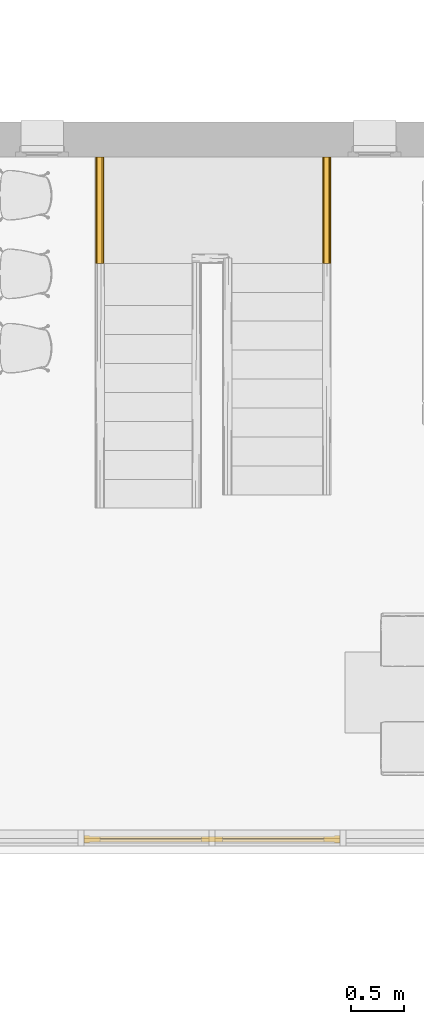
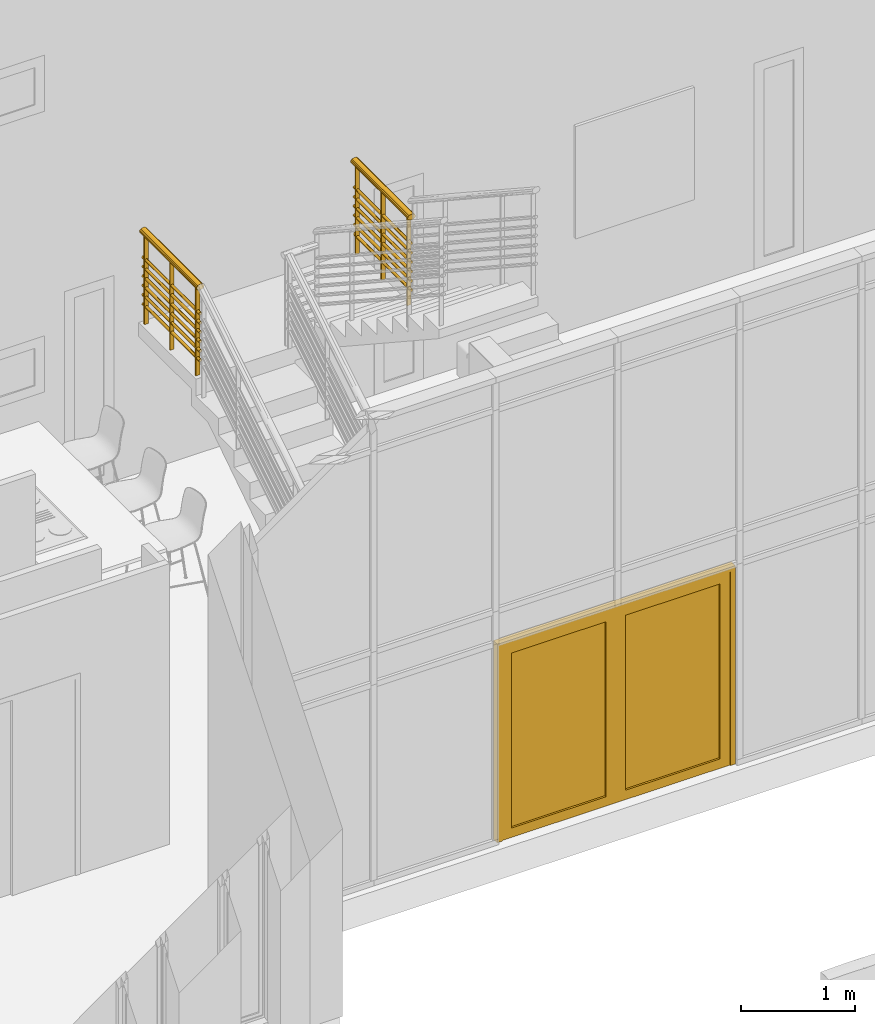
# One storey, part 19 of 40: 2 railings, 1 door, 2 elements without a shape of their own.
"""IFC2X3 building model written with IfcOpenShell, lengths in metres."""

from ifc_helpers import new_model, entity, si_unit, converted_unit, derived_unit, direction, frame, frame_2d, origin, origin_2d_with_axis, place, context, subcontext, project, spatial, polyline, rectangle, circle, outline, extrude, source, transform, mapped, material, material_list, type_object, type_shapes, element, aggregate, save


model = new_model("IFC2X3")

# Units and contexts
model_context = context("Model", 3, precision=1e-05, world=origin(), true_north=direction((6.12303176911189e-17, 1.0)))
body_context = subcontext(model_context, "Body", "Model", "MODEL_VIEW")
ifc_project = project(units=[si_unit("LENGTHUNIT", "METRE"), si_unit("AREAUNIT", "SQUARE_METRE"), si_unit("VOLUMEUNIT", "CUBIC_METRE"), converted_unit("PLANEANGLEUNIT", "DEGREE", entity("IfcRatioMeasure", 0.0174532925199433), si_unit("PLANEANGLEUNIT", "RADIAN"), dimensions=[0, 0, 0, 0, 0, 0, 0]), si_unit("MASSUNIT", "GRAM", prefix="KILO"), derived_unit("MASSDENSITYUNIT", [(si_unit("MASSUNIT", "GRAM", prefix="KILO"), 1), (si_unit("LENGTHUNIT", "METRE"), -3)]), si_unit("TIMEUNIT", "SECOND"), si_unit("FREQUENCYUNIT", "HERTZ"), si_unit("THERMODYNAMICTEMPERATUREUNIT", "DEGREE_CELSIUS"), derived_unit("THERMALTRANSMITTANCEUNIT", [(si_unit("MASSUNIT", "GRAM", prefix="KILO"), 1), (si_unit("THERMODYNAMICTEMPERATUREUNIT", "KELVIN"), -1), (si_unit("TIMEUNIT", "SECOND"), -3)]), derived_unit("VOLUMETRICFLOWRATEUNIT", [(si_unit("LENGTHUNIT", "METRE"), 3), (si_unit("TIMEUNIT", "SECOND"), -1)]), si_unit("ELECTRICCURRENTUNIT", "AMPERE"), si_unit("ELECTRICVOLTAGEUNIT", "VOLT"), si_unit("POWERUNIT", "WATT"), si_unit("FORCEUNIT", "NEWTON", prefix="KILO"), si_unit("ILLUMINANCEUNIT", "LUX"), si_unit("LUMINOUSFLUXUNIT", "LUMEN"), si_unit("LUMINOUSINTENSITYUNIT", "CANDELA"), derived_unit("USERDEFINED", [(si_unit("MASSUNIT", "GRAM", prefix="KILO"), -1), (si_unit("LENGTHUNIT", "METRE"), -2), (si_unit("TIMEUNIT", "SECOND"), 3), (si_unit("LUMINOUSFLUXUNIT", "LUMEN"), 1)]), derived_unit("LINEARVELOCITYUNIT", [(si_unit("LENGTHUNIT", "METRE"), 1), (si_unit("TIMEUNIT", "SECOND"), -1)]), si_unit("PRESSUREUNIT", "PASCAL"), derived_unit("USERDEFINED", [(si_unit("LENGTHUNIT", "METRE"), -2), (si_unit("MASSUNIT", "GRAM", prefix="KILO"), 1), (si_unit("TIMEUNIT", "SECOND"), -2)])], contexts=[model_context])

# Site, building, storey
site_placement = place(None, origin())
site = spatial("IfcSite", under=ifc_project, at=site_placement, Name="Surface", CompositionType="ELEMENT")
building_placement = place(site_placement, origin())
building = spatial("IfcBuilding", under=site, at=building_placement, CompositionType="ELEMENT")
storey_placement = place(building_placement, origin())
storey = spatial("IfcBuildingStorey", under=building, at=storey_placement, Name="RDC", CompositionType="ELEMENT", Elevation=-1.0941605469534e-13)

# Curtain wall, door
curtain_wall_type = type_object("IfcCurtainWallType", Name="Mur-rideau:Simple panneau", PredefinedType="NOTDEFINED")
curtain_wall_placement = place(storey_placement, origin())
curtain_wall = element("IfcCurtainWall", 1, at=curtain_wall_placement, inside=storey, type_object=curtain_wall_type, Name="Mur-rideau:Simple panneau", ObjectType="Mur-rideau:Simple panneau")
ifc_material_1 = material(Name="Porte - Cadre")
ifc_material_2 = material(Name="PVC - Blanc")
ifc_material_3 = material(Name="Verre")
ifc_material_list_1 = material_list([ifc_material_1, ifc_material_2, ifc_material_3])
ifc_material_list_2 = material_list([ifc_material_1, ifc_material_2, ifc_material_3])
door_style = type_object("IfcDoorStyle", Name="Double vitrée", ConstructionType="NOTDEFINED", OperationType="DOUBLE_DOOR_SINGLE_SWING", ParameterTakesPrecedence=False, Sizeable=False, material=ifc_material_list_2)
shared_shape = source(origin(), body_context, "Body", "SweptSolid", [
    extrude(outline(polyline([(1.15333333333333, -1.0475), (1.20333333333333, -1.0475), (1.20333333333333, 1.0725), (-1.20333333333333, 1.0725), (-1.20333333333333, -1.0475), (-1.15333333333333, -1.0475), (-1.15333333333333, 1.0225), (1.15333333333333, 1.0225), (1.15333333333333, -1.0475)])), frame((0.0, -0.0449999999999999, 1.0475), z_axis=(0.0, 1.0, 0.0), x_axis=(-1.0, 0.0, 0.0)), (0.0, 0.0, 1.0), 0.0699999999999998),
    extrude(outline(polyline([(-0.576666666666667, -1.035), (0.576666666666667, -1.035), (0.576666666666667, 1.035), (-0.576666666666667, 1.035), (-0.576666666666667, -1.035)]), holes=[polyline([(-0.476666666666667, 0.935), (0.476666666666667, 0.935), (0.476666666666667, -0.935), (-0.476666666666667, -0.935), (-0.476666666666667, 0.935)])]), frame((0.576666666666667, -0.0349999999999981, 1.035), z_axis=(0.0, 1.0, 0.0), x_axis=(-1.0, 0.0, 0.0)), (0.0, 0.0, 1.0), 0.05),
    extrude(rectangle(XDim=0.953333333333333, YDim=0.01, at=origin_2d_with_axis()), frame((0.576666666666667, -0.00999999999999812, 0.1), z_axis=(0.0, 0.0, 1.0), x_axis=(-1.0, 0.0, 0.0)), (0.0, 0.0, 1.0), 1.87),
    extrude(rectangle(XDim=0.953333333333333, YDim=0.01, at=frame_2d((0.0, 8.67361737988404e-19), x_axis=(1.0, 0.0))), frame((-0.576666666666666, -0.0100000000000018, 0.1), z_axis=(0.0, 0.0, 1.0), x_axis=(-1.0, 0.0, 0.0)), (0.0, 0.0, 1.0), 1.87),
    extrude(outline(polyline([(-1.035, -0.576666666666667), (1.035, -0.576666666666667), (1.035, 0.576666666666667), (-1.035, 0.576666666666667), (-1.035, -0.576666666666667)]), holes=[polyline([(-0.935, -0.476666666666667), (-0.935, 0.476666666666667), (0.935, 0.476666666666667), (0.935, -0.476666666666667), (-0.935, -0.476666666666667)])]), frame((-0.576666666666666, -0.0350000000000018, 1.035), z_axis=(0.0, 1.0, 0.0), x_axis=(0.0, 0.0, -1.0)), (0.0, 0.0, 1.0), 0.05),
])
type_shapes(door_style, [shared_shape])
door_placement = place(curtain_wall_placement, frame((2.3975111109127, 1.13701067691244, 0.0)))
door = element("IfcDoor", 2, at=door_placement, type_object=door_style, material=ifc_material_list_1, Name="Double vitrée:Double vitrée", ObjectType="Double vitrée", OverallHeight=2.12, OverallWidth=2.40666666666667, context=body_context, shape_type="MappedRepresentation", body=[
    mapped(shared_shape, transform((0.0, 0.0, 0.0), scale=1.0)),
])
aggregate(curtain_wall, [door])

# Stair, railings
stair_placement = place(storey_placement, origin())
stair = element("IfcStair", 3, at=stair_placement, inside=storey, Name="Escalier:Monobloc", ObjectType="Escalier:Monobloc", ShapeType="NOTDEFINED")
ifc_material_4 = material(Name="Peinture - Grise")
ifc_material_5 = material(Name="Pin (1)")
ifc_material_list_3 = material_list([ifc_material_4, ifc_material_5])
railing_1_placement = place(stair_placement, origin())
railing_1 = element("IfcRailing", 4, at=railing_1_placement, material=ifc_material_list_3, Name="Garde-corps:Type Bateau escalier 2", ObjectType="Garde-corps:Type Bateau escalier 2", PredefinedType="NOTDEFINED", context=body_context, shape_type="SweptSolid", body=[
    extrude(rectangle(XDim=0.0119999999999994, YDim=0.0400000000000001, at=origin_2d_with_axis()), frame((1.34251111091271, 7.04701067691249, 1.60941176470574), z_axis=(0.0, 0.0, 1.0), x_axis=(0.0, -1.0, 0.0)), (0.0, 0.0, 1.0), 0.939846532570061),
    extrude(rectangle(XDim=0.0119999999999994, YDim=0.0400000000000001, at=origin_2d_with_axis()), frame((1.34251111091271, 7.49701067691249, 1.60941176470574), z_axis=(0.0, 0.0, 1.0), x_axis=(0.0, -1.0, 0.0)), (0.0, 0.0, 1.0), 0.939846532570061),
    extrude(rectangle(XDim=0.0119999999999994, YDim=0.0400000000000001, at=origin_2d_with_axis()), frame((1.34251111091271, 6.59701067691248, 1.60941176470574), z_axis=(0.0, 0.0, 1.0), x_axis=(0.0, -1.0, 0.0)), (0.0, 0.0, 1.0), 0.939846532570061),
    extrude(circle(Radius=0.015, at=frame_2d((-2.70716782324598e-16, 0.0), x_axis=(1.0, 0.0))), frame((1.34251111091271, 6.54701067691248, 2.29441176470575), z_axis=(0.0, 1.0, 0.0), x_axis=(1.0, 0.0, 0.0)), (0.0, 0.0, 1.0), 1.0),
    extrude(circle(Radius=0.015, at=frame_2d((-2.70716782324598e-16, 0.0), x_axis=(1.0, 0.0))), frame((1.34251111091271, 6.54701067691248, 2.19441176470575), z_axis=(0.0, 1.0, 0.0), x_axis=(1.0, 0.0, 0.0)), (0.0, 0.0, 1.0), 1.0),
    extrude(circle(Radius=0.015, at=frame_2d((-2.70716782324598e-16, 0.0), x_axis=(1.0, 0.0))), frame((1.34251111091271, 6.54701067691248, 2.09441176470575), z_axis=(0.0, 1.0, 0.0), x_axis=(1.0, 0.0, 0.0)), (0.0, 0.0, 1.0), 1.0),
    extrude(circle(Radius=0.015, at=frame_2d((-2.70716782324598e-16, 0.0), x_axis=(1.0, 0.0))), frame((1.34251111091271, 6.54701067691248, 1.99441176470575), z_axis=(0.0, 1.0, 0.0), x_axis=(1.0, 0.0, 0.0)), (0.0, 0.0, 1.0), 1.0),
    extrude(circle(Radius=0.015, at=frame_2d((-2.70716782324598e-16, 0.0), x_axis=(1.0, 0.0))), frame((1.34251111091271, 6.54701067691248, 1.89441176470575), z_axis=(0.0, 1.0, 0.0), x_axis=(1.0, 0.0, 0.0)), (0.0, 0.0, 1.0), 1.0),
    extrude(circle(Radius=0.015, at=frame_2d((-2.70716782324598e-16, 0.0), x_axis=(1.0, 0.0))), frame((1.34251111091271, 6.54701067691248, 1.79441176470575), z_axis=(0.0, 1.0, 0.0), x_axis=(1.0, 0.0, 0.0)), (0.0, 0.0, 1.0), 1.0),
    extrude(outline(polyline([(-0.0109067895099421, -0.038484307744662), (0.00177588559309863, -0.038484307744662), (0.0141514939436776, -0.0318300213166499), (0.024080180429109, -0.0196720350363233), (0.0298451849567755, -0.00411257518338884), (0.0304496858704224, 0.012157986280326), (0.0257891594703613, 0.0263263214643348), (0.0166694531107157, 0.0359425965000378), (0.0109067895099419, 0.0384843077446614), (-0.00177588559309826, 0.0384843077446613), (-0.0141514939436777, 0.0318300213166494), (-0.0240801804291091, 0.019672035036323), (-0.0298451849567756, 0.00411257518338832), (-0.0304496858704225, -0.0121579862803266), (-0.0257891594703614, -0.0263263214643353), (-0.0166694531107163, -0.0359425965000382), (-0.0109067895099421, -0.038484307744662)])), frame((1.34251111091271, 6.54701067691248, 2.57941176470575), z_axis=(0.0, 1.0, 0.0), x_axis=(-0.272669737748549, 0.0, -0.96210769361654)), (0.0, 0.0, 1.0), 1.0),
])
ifc_material_list_4 = material_list([ifc_material_4, ifc_material_5])
railing_2_placement = place(stair_placement, origin())
railing_2 = element("IfcRailing", 5, at=railing_2_placement, material=ifc_material_list_4, Name="Garde-corps:Type Bateau escalier 2", ObjectType="Garde-corps:Type Bateau escalier 2", PredefinedType="NOTDEFINED", context=body_context, shape_type="SweptSolid", body=[
    extrude(rectangle(XDim=0.0119999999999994, YDim=0.0400000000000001, at=frame_2d((0.0, -2.70616862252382e-16), x_axis=(1.0, 0.0))), frame((3.47751111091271, 7.04701067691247, 1.60941176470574), z_axis=(0.0, 0.0, 1.0), x_axis=(0.0, 1.0, 0.0)), (0.0, 0.0, 1.0), 0.939846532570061),
    extrude(rectangle(XDim=0.0119999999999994, YDim=0.0400000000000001, at=frame_2d((0.0, 2.70616862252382e-16), x_axis=(1.0, 0.0))), frame((3.47751111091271, 6.59701067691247, 1.60941176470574), z_axis=(0.0, 0.0, 1.0), x_axis=(0.0, 1.0, 0.0)), (0.0, 0.0, 1.0), 0.939846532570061),
    extrude(rectangle(XDim=0.0119999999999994, YDim=0.0400000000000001, at=frame_2d((0.0, -2.70616862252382e-16), x_axis=(1.0, 0.0))), frame((3.47751111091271, 7.49701067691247, 1.60941176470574), z_axis=(0.0, 0.0, 1.0), x_axis=(0.0, 1.0, 0.0)), (0.0, 0.0, 1.0), 0.939846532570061),
    extrude(circle(Radius=0.015, at=origin_2d_with_axis()), frame((3.47751111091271, 6.54701067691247, 2.29441176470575), z_axis=(0.0, 1.0, 0.0), x_axis=(-1.0, 0.0, 0.0)), (0.0, 0.0, 1.0), 0.999999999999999),
    extrude(circle(Radius=0.015, at=origin_2d_with_axis()), frame((3.47751111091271, 6.54701067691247, 2.19441176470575), z_axis=(0.0, 1.0, 0.0), x_axis=(-1.0, 0.0, 0.0)), (0.0, 0.0, 1.0), 0.999999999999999),
    extrude(circle(Radius=0.015, at=origin_2d_with_axis()), frame((3.47751111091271, 6.54701067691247, 2.09441176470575), z_axis=(0.0, 1.0, 0.0), x_axis=(-1.0, 0.0, 0.0)), (0.0, 0.0, 1.0), 0.999999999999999),
    extrude(circle(Radius=0.015, at=origin_2d_with_axis()), frame((3.47751111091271, 6.54701067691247, 1.99441176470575), z_axis=(0.0, 1.0, 0.0), x_axis=(-1.0, 0.0, 0.0)), (0.0, 0.0, 1.0), 0.999999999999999),
    extrude(circle(Radius=0.015, at=origin_2d_with_axis()), frame((3.47751111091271, 6.54701067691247, 1.89441176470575), z_axis=(0.0, 1.0, 0.0), x_axis=(-1.0, 0.0, 0.0)), (0.0, 0.0, 1.0), 0.999999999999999),
    extrude(circle(Radius=0.015, at=origin_2d_with_axis()), frame((3.47751111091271, 6.54701067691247, 1.79441176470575), z_axis=(0.0, 1.0, 0.0), x_axis=(-1.0, 0.0, 0.0)), (0.0, 0.0, 1.0), 0.999999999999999),
    extrude(outline(polyline([(-0.0109067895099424, -0.0384843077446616), (0.00177588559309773, -0.0384843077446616), (0.0141514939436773, -0.0318300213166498), (0.0240801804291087, -0.0196720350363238), (0.0298451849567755, -0.00411257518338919), (0.0304496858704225, 0.0121579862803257), (0.0257891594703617, 0.0263263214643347), (0.0166694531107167, 0.035942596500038), (0.0109067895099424, 0.0384843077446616), (-0.00177588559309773, 0.0384843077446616), (-0.0141514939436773, 0.0318300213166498), (-0.0240801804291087, 0.0196720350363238), (-0.0298451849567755, 0.00411257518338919), (-0.0304496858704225, -0.0121579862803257), (-0.0257891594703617, -0.0263263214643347), (-0.0166694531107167, -0.035942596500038), (-0.0109067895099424, -0.0384843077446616)])), frame((3.47751111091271, 6.54701067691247, 2.57941176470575), z_axis=(0.0, 1.0, 0.0), x_axis=(0.27266973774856, 0.0, 0.962107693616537)), (0.0, 0.0, 1.0), 0.999999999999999),
])
aggregate(stair, [railing_1, railing_2])

save(model, "model.ifc")
